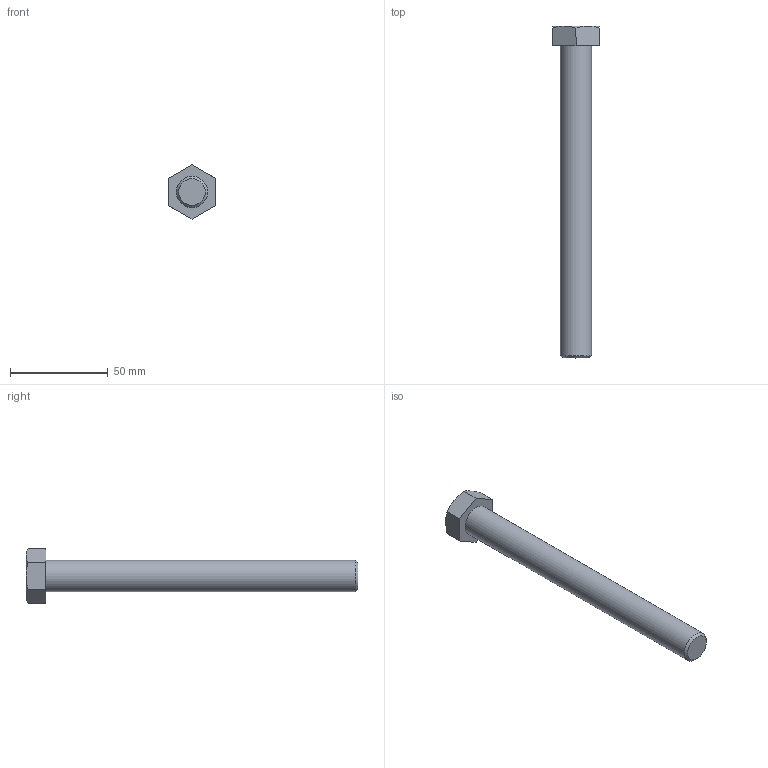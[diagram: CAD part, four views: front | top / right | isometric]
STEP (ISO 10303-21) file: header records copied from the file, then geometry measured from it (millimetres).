
FILE_DESCRIPTION(/* description */ (''),/* implementation_level */ '2;1');
FILE_NAME(/* name */ 'C:\Users\unitec\Documents\Inventor\各種小物\JIS\JIS B 1180 六角ボルト 等級C\hbc16\M16x160.stp',/* time_stamp */ '2015-02-13T14:52:08+09:00',/* author */ ('unitec'),/* organization */ (''),/* preprocessor_version */ 'ST-DEVELOPER v15.2',/* originating_system */ 'Autodesk Inventor 2014',/* authorisation */ '');
FILE_SCHEMA (('AUTOMOTIVE_DESIGN { 1 0 10303 214 3 1 1 }'));
Length unit declared in the file: millimetre
Products named in the file (1): M16x160
Bounding box: 24 x 170 x 27.71 mm (x, y, z)
Volume: 37107.1 mm3; surface area: 9810 mm2
Topology: 1 solids, 1 shells, 17 faces, 35 edges, 21 vertices
Faces by surface type: plane 9, cone 7, cylinder 1
Full cylindrical faces by diameter (mm): 16 x1
Entity records: 441 total; most frequent: CARTESIAN_POINT 96, ORIENTED_EDGE 66, DIRECTION 66, EDGE_CURVE 33, AXIS2_PLACEMENT_3D 27, VERTEX_POINT 21, EDGE_LOOP 20, ADVANCED_FACE 17
